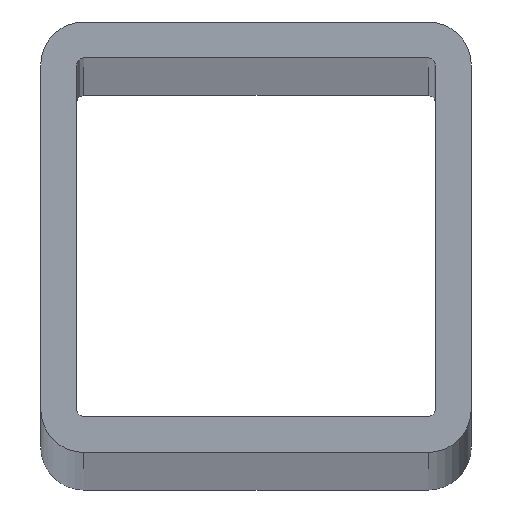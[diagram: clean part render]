
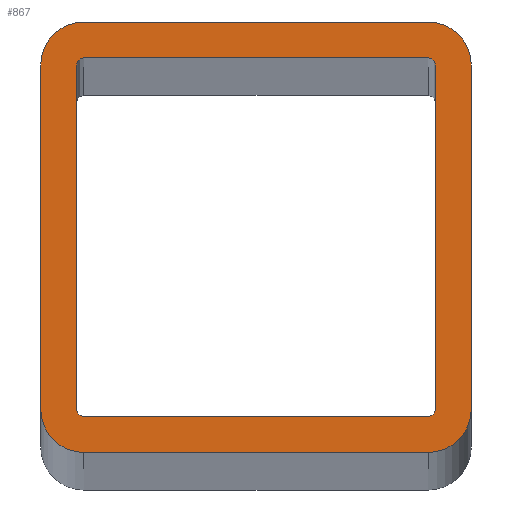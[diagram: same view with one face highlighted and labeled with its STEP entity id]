
A CAD part, top view. The second image highlights one B-rep face of the part: STEP entity #867.
In plain terms, the highlighted planar face has unit normal (0, 0, 1).
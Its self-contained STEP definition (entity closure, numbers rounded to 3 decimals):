
#440=CARTESIAN_POINT('',(-24.,24.,1500.));
#441=DIRECTION('',(0.,0.,1.));
#442=DIRECTION('',(0.,1.,0.));
#443=AXIS2_PLACEMENT_3D('',#440,#441,#442);
#448=DIRECTION('',(-1.,0.,0.));
#449=VECTOR('',#448,48.);
#450=CARTESIAN_POINT('',(24.,30.,1500.));
#451=LINE('',#450,#449);
#455=CARTESIAN_POINT('',(24.,24.,1500.));
#456=DIRECTION('',(0.,0.,1.));
#457=DIRECTION('',(1.,0.,0.));
#458=AXIS2_PLACEMENT_3D('',#455,#456,#457);
#463=DIRECTION('',(0.,1.,0.));
#464=VECTOR('',#463,48.);
#465=CARTESIAN_POINT('',(30.,-24.,1500.));
#466=LINE('',#465,#464);
#470=CARTESIAN_POINT('',(24.,-24.,1500.));
#471=DIRECTION('',(0.,0.,1.));
#472=DIRECTION('',(0.,-1.,0.));
#473=AXIS2_PLACEMENT_3D('',#470,#471,#472);
#478=DIRECTION('',(1.,0.,0.));
#479=VECTOR('',#478,48.);
#480=CARTESIAN_POINT('',(-24.,-30.,1500.));
#481=LINE('',#480,#479);
#485=CARTESIAN_POINT('',(-24.,-24.,1500.));
#486=DIRECTION('',(0.,0.,1.));
#487=DIRECTION('',(-1.,0.,0.));
#488=AXIS2_PLACEMENT_3D('',#485,#486,#487);
#493=DIRECTION('',(0.,-1.,0.));
#494=VECTOR('',#493,48.);
#495=CARTESIAN_POINT('',(-30.,24.,1500.));
#496=LINE('',#495,#494);
#500=DIRECTION('',(1.,0.,0.));
#501=VECTOR('',#500,48.);
#502=CARTESIAN_POINT('',(-24.,25.,1500.));
#503=LINE('',#502,#501);
#507=CARTESIAN_POINT('',(-24.,24.,1500.));
#508=DIRECTION('',(0.,0.,-1.));
#509=DIRECTION('',(-1.,0.,0.));
#510=AXIS2_PLACEMENT_3D('',#507,#508,#509);
#515=DIRECTION('',(0.,1.,0.));
#516=VECTOR('',#515,48.);
#517=CARTESIAN_POINT('',(-25.,-24.,1500.));
#518=LINE('',#517,#516);
#522=CARTESIAN_POINT('',(-24.,-24.,1500.));
#523=DIRECTION('',(0.,0.,-1.));
#524=DIRECTION('',(0.,-1.,0.));
#525=AXIS2_PLACEMENT_3D('',#522,#523,#524);
#530=DIRECTION('',(-1.,0.,0.));
#531=VECTOR('',#530,48.);
#532=CARTESIAN_POINT('',(24.,-25.,1500.));
#533=LINE('',#532,#531);
#537=CARTESIAN_POINT('',(24.,-24.,1500.));
#538=DIRECTION('',(0.,0.,-1.));
#539=DIRECTION('',(1.,0.,0.));
#540=AXIS2_PLACEMENT_3D('',#537,#538,#539);
#545=DIRECTION('',(0.,-1.,0.));
#546=VECTOR('',#545,48.);
#547=CARTESIAN_POINT('',(25.,24.,1500.));
#548=LINE('',#547,#546);
#552=CARTESIAN_POINT('',(24.,24.,1500.));
#553=DIRECTION('',(0.,0.,-1.));
#554=DIRECTION('',(0.,1.,0.));
#555=AXIS2_PLACEMENT_3D('',#552,#553,#554);
#648=CARTESIAN_POINT('',(-24.,30.,1500.));
#649=CARTESIAN_POINT('',(-30.,24.,1500.));
#650=VERTEX_POINT('',#648);
#651=VERTEX_POINT('',#649);
#652=CARTESIAN_POINT('',(-30.,-24.,1500.));
#653=VERTEX_POINT('',#652);
#654=CARTESIAN_POINT('',(-24.,-30.,1500.));
#655=VERTEX_POINT('',#654);
#656=CARTESIAN_POINT('',(24.,-30.,1500.));
#657=VERTEX_POINT('',#656);
#658=CARTESIAN_POINT('',(30.,-24.,1500.));
#659=VERTEX_POINT('',#658);
#660=CARTESIAN_POINT('',(30.,24.,1500.));
#661=VERTEX_POINT('',#660);
#662=CARTESIAN_POINT('',(24.,30.,1500.));
#663=VERTEX_POINT('',#662);
#664=CARTESIAN_POINT('',(-24.,25.,1500.));
#665=CARTESIAN_POINT('',(24.,25.,1500.));
#666=VERTEX_POINT('',#664);
#667=VERTEX_POINT('',#665);
#668=CARTESIAN_POINT('',(25.,24.,1500.));
#669=VERTEX_POINT('',#668);
#670=CARTESIAN_POINT('',(25.,-24.,1500.));
#671=VERTEX_POINT('',#670);
#672=CARTESIAN_POINT('',(24.,-25.,1500.));
#673=VERTEX_POINT('',#672);
#674=CARTESIAN_POINT('',(-24.,-25.,1500.));
#675=VERTEX_POINT('',#674);
#676=CARTESIAN_POINT('',(-25.,-24.,1500.));
#677=VERTEX_POINT('',#676);
#678=CARTESIAN_POINT('',(-25.,24.,1500.));
#679=VERTEX_POINT('',#678);
#834=CARTESIAN_POINT('',(0.,0.,1500.));
#835=DIRECTION('',(0.,0.,1.));
#836=DIRECTION('',(1.,0.,0.));
#837=AXIS2_PLACEMENT_3D('',#834,#835,#836);
#838=PLANE('',#837);
#839=ORIENTED_EDGE('',*,*,#730,.F.);
#840=ORIENTED_EDGE('',*,*,#745,.F.);
#841=ORIENTED_EDGE('',*,*,#759,.F.);
#842=ORIENTED_EDGE('',*,*,#773,.F.);
#843=ORIENTED_EDGE('',*,*,#787,.F.);
#844=ORIENTED_EDGE('',*,*,#801,.F.);
#845=ORIENTED_EDGE('',*,*,#815,.F.);
#846=ORIENTED_EDGE('',*,*,#828,.F.);
#847=EDGE_LOOP('',(#839,#840,#841,#842,#843,#844,#845,#846));
#848=FACE_OUTER_BOUND('',#847,.F.);
#850=ORIENTED_EDGE('',*,*,#849,.F.);
#852=ORIENTED_EDGE('',*,*,#851,.F.);
#854=ORIENTED_EDGE('',*,*,#853,.F.);
#856=ORIENTED_EDGE('',*,*,#855,.F.);
#858=ORIENTED_EDGE('',*,*,#857,.F.);
#860=ORIENTED_EDGE('',*,*,#859,.F.);
#862=ORIENTED_EDGE('',*,*,#861,.F.);
#864=ORIENTED_EDGE('',*,*,#863,.F.);
#865=EDGE_LOOP('',(#850,#852,#854,#856,#858,#860,#862,#864));
#866=FACE_BOUND('',#865,.F.);
#444=CIRCLE('',#443,6.);
#459=CIRCLE('',#458,6.);
#474=CIRCLE('',#473,6.);
#489=CIRCLE('',#488,6.);
#511=CIRCLE('',#510,1.);
#526=CIRCLE('',#525,1.);
#541=CIRCLE('',#540,1.);
#556=CIRCLE('',#555,1.);
#730=EDGE_CURVE('',#650,#651,#444,.T.);
#745=EDGE_CURVE('',#663,#650,#451,.T.);
#759=EDGE_CURVE('',#661,#663,#459,.T.);
#773=EDGE_CURVE('',#659,#661,#466,.T.);
#787=EDGE_CURVE('',#657,#659,#474,.T.);
#801=EDGE_CURVE('',#655,#657,#481,.T.);
#815=EDGE_CURVE('',#653,#655,#489,.T.);
#828=EDGE_CURVE('',#651,#653,#496,.T.);
#849=EDGE_CURVE('',#666,#667,#503,.T.);
#851=EDGE_CURVE('',#679,#666,#511,.T.);
#853=EDGE_CURVE('',#677,#679,#518,.T.);
#855=EDGE_CURVE('',#675,#677,#526,.T.);
#857=EDGE_CURVE('',#673,#675,#533,.T.);
#859=EDGE_CURVE('',#671,#673,#541,.T.);
#861=EDGE_CURVE('',#669,#671,#548,.T.);
#863=EDGE_CURVE('',#667,#669,#556,.T.);
#867=ADVANCED_FACE('',(#848,#866),#838,.T.);
